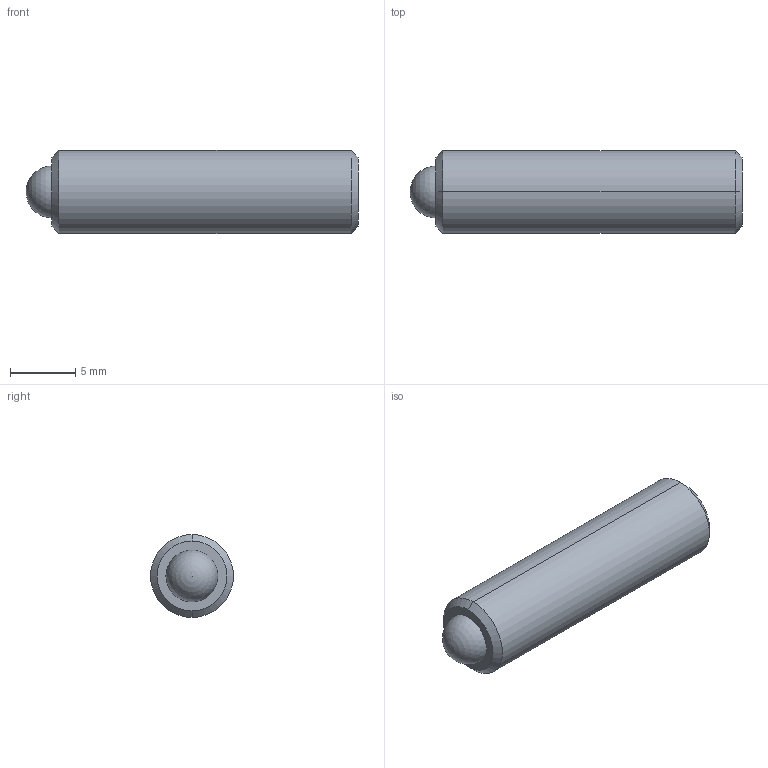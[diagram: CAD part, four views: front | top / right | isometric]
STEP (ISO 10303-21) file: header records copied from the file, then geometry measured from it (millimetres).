
FILE_DESCRIPTION (( 'STEP AP214' ), '1' );
FILE_NAME ('TS250-80-1000-HV.STEP', '2013-05-09T12:56:36', ( 'workpc' ), ( 'Microsoft' ), 'SwSTEP 2.0', 'SolidWorks 2013', '' );
FILE_SCHEMA (( 'AUTOMOTIVE_DESIGN' ));
Length unit declared in the file: inch
Products named in the file (1): TS250-80-1000-HV
Bounding box: 25.4 x 6.35 x 6.35 mm (x, y, z)
Volume: 733.7 mm3; surface area: 611.1 mm2
Topology: 2 solids, 2 shells, 29 faces, 69 edges, 44 vertices
Faces by surface type: cylinder 12, plane 11, cone 4, sphere 2
Entity records: 886 total; most frequent: DIRECTION 149, CARTESIAN_POINT 144, ORIENTED_EDGE 128, EDGE_CURVE 64, AXIS2_PLACEMENT_3D 58, VERTEX_POINT 41, VECTOR 33, LINE 33
